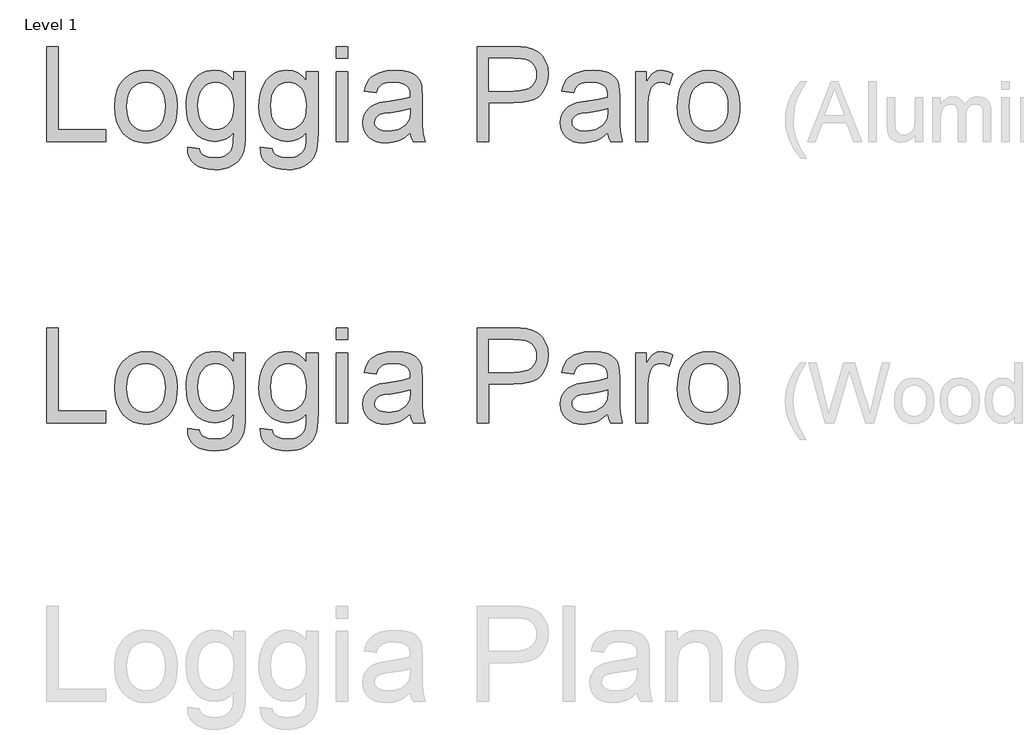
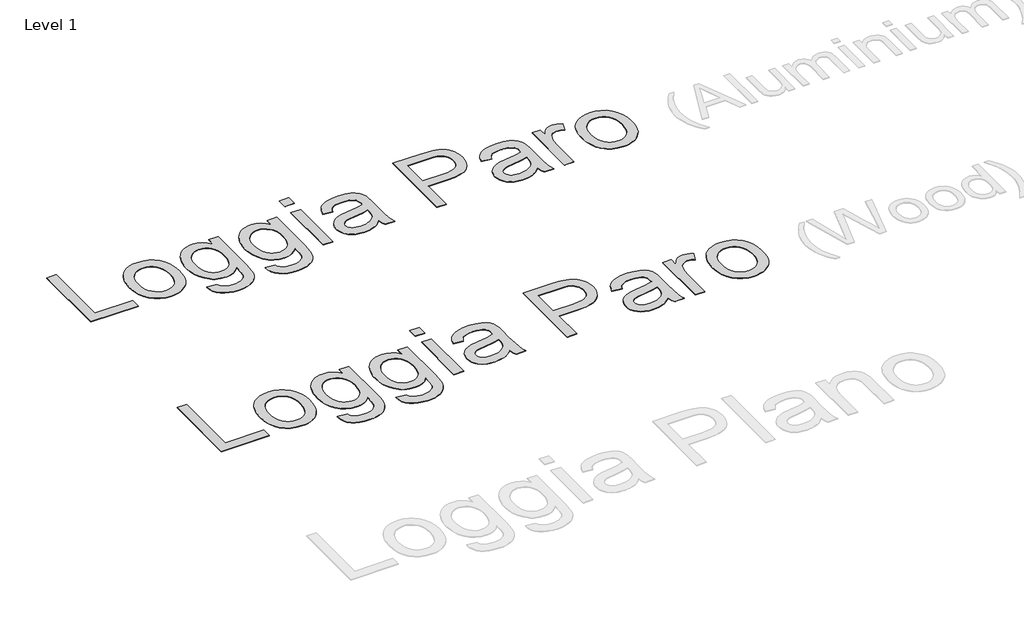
# One storey, part 13 of 80: 2 proxies.
"""IFC4 building model written with IfcOpenShell, lengths in millimetres."""

from ifc_helpers import new_model, si_unit, origin, origin_with_axes, place, context, project, spatial, polyline, outline, extrude, element, save

model = new_model("IFC4")

# Units and contexts
model_context = context("Model", 3, world=origin())
ifc_project = project(units=[si_unit("LENGTHUNIT", "METRE", prefix="MILLI")], contexts=[model_context])

# Site, building, storey
site = spatial("IfcSite", under=ifc_project)
building = spatial("IfcBuilding", under=site)
storey = spatial("IfcBuildingStorey", under=building, Name="Level 1", Elevation=0.0)

# Proxies
placement = place(None, origin())
element("IfcBuildingElementProxy", 1, Name="800mm Arial", ObjectType="800mm Arial", at=placement, inside=storey, context=model_context, shape_type="SweptSolid", body=[
    extrude(outline(polyline([(369965.6331768, -49676.4812629), (369965.6331768, -48877.0925645), (370065.556764, -48877.0925645), (370065.556764, -49576.5576756), (370465.2511132, -49576.5576756), (370465.2511132, -49676.4812629), (369965.6331768, -49676.4812629)])), origin_with_axes(), (0.0, 0.0, 1.0), 5.0),
    extrude(outline(polyline([(370540.1938037, -49382.9557252), (370545.5973864, -49306.9274391), (370552.3518647, -49272.8562038), (370561.8081343, -49241.4135735), (370573.9661953, -49212.5995483), (370588.8260477, -49186.4141283), (370606.3876913, -49162.8573133), (370626.6511263, -49141.9291035), (370664.7323567, -49113.4962566), (370706.7656431, -49093.1870802), (370752.7509853, -49081.0015744), (370802.6883836, -49076.9397391), (370857.8159047, -49081.8859079), (370907.6618201, -49096.7244143), (370952.22613, -49121.4552582), (370991.5088342, -49156.0784396), (371023.5704979, -49199.4229791), (371046.4716863, -49250.3178971), (371060.2123993, -49308.7631935), (371064.792637, -49374.7588684), (371062.7678182, -49428.2457984), (371056.6933618, -49475.7070628), (371046.5692679, -49517.1426617), (371032.3955364, -49552.5525951), (371014.349034, -49583.1383366), (370992.6066275, -49610.1013603), (370967.1683168, -49633.441666), (370938.0341019, -49653.1592537), (370906.3383693, -49668.8272039), (370873.2155054, -49680.0185969), (370838.6655101, -49686.7334327), (370802.6883836, -49688.9717113), (370746.7558141, -49684.0438391), (370696.4463859, -49669.2602224), (370651.760099, -49644.6208613), (370612.6969535, -49610.1257557), (370580.9768254, -49566.3603954), (370558.3195911, -49513.9102703), (370544.7252505, -49452.7753802), (370540.1938037, -49382.9557252)]), holes=[polyline([(370640.117391, -49382.760562), (370643.0082467, -49431.2281369), (370651.6808139, -49473.1943359), (370666.1350926, -49508.6591589), (370686.3710828, -49537.6226059), (370710.9860485, -49560.1212701), (370738.5772539, -49576.1917445), (370769.1446989, -49585.8340291), (370802.6883836, -49589.048124), (370836.0613004, -49585.8157326), (370866.5067684, -49576.1185583), (370894.0247876, -49559.9566011), (370918.6153579, -49537.3298611), (370938.8513481, -49508.079768), (370953.3056267, -49472.0477518), (370961.9781939, -49429.2338124), (370964.8690497, -49379.6379499), (370961.9598974, -49332.7072855), (370953.2324405, -49291.8388799), (370938.6866791, -49257.0327329), (370918.322613, -49228.2888445), (370893.6405599, -49205.7901803), (370866.1408373, -49189.7197059), (370835.8234452, -49180.0774213), (370802.6883836, -49176.8633264), (370769.1446989, -49180.0652236), (370738.5772539, -49189.6709151), (370710.9860485, -49205.680401), (370686.3710828, -49228.0936812), (370666.1350926, -49256.9717443), (370651.6808139, -49292.3755788), (370643.0082467, -49334.3051847), (370640.117391, -49382.760562)])]), origin_with_axes(), (0.0, 0.0, 1.0), 5.0),
    extrude(outline(polyline([(371152.2257759, -49726.4430565), (371252.1493631, -49738.9335049), (371256.3697686, -49755.7663358), (371263.1760871, -49770.159626), (371272.5683189, -49782.1133754), (371284.5464637, -49791.6275842), (371303.9286146, -49801.3613516), (371326.5553547, -49808.3140426), (371381.5426022, -49813.8761954), (371412.7443278, -49812.3026917), (371440.1891607, -49807.5821804), (371463.877101, -49799.7146616), (371483.8081485, -49788.7001353), (371500.3970253, -49774.8435441), (371514.0584533, -49758.4498306), (371524.7924324, -49739.5189947), (371532.5989626, -49718.0510365), (371538.014743, -49675.0663293), (371539.4296766, -49601.5385724), (371506.1787368, -49634.3259995), (371469.0733227, -49657.7455903), (371428.1134342, -49671.7973447), (371383.2990715, -49676.4812629), (371328.5130861, -49671.0288894), (371280.2772675, -49654.671769), (371258.6156707, -49642.4039287), (371238.5916157, -49627.4099016), (371203.4561307, -49589.2432873), (371175.5782793, -49543.4531082), (371155.6655283, -49493.3205467), (371143.7178776, -49438.8456028), (371139.7353274, -49380.0282764), (371141.522291, -49338.8793235), (371146.8831817, -49299.3526652), (371155.8179995, -49261.4483015), (371168.3267445, -49225.1662324), (371184.2203522, -49191.7140305), (371203.3097582, -49162.2992684), (371225.5949626, -49136.9219462), (371251.0759652, -49115.5820639), (371279.3441432, -49098.6760468), (371309.9908733, -49086.6003203), (371343.0161556, -49079.3548844), (371378.4199901, -49076.9397391), (371425.1493923, -49082.4043103), (371467.5608074, -49098.7980238), (371505.6542356, -49126.1208797), (371539.4296766, -49164.372878), (371539.4296766, -49089.4301875), (371639.3532639, -49089.4301875), (371639.3532639, -49596.2691645), (371637.6455854, -49659.7765079), (371632.5225499, -49713.2939321), (371623.9841575, -49756.8214372), (371612.030408, -49790.359023), (371596.3746555, -49817.4074306), (371576.730254, -49841.4674008), (371553.0972034, -49862.5389336), (371525.4755038, -49880.6220291), (371494.1457023, -49895.1372963), (371459.3883461, -49905.5053443), (371421.2034352, -49911.7261731), (371379.5909696, -49913.7997827), (371330.6354865, -49910.8784327), (371286.6200733, -49902.1143827), (371247.5447301, -49887.5076328), (371213.4094567, -49867.0581828), (371185.8365479, -49840.7416374), (371166.4482982, -49808.5336013), (371155.2447075, -49770.4340743), (371152.2257759, -49726.4430565)]), holes=[polyline([(371239.6589147, -49373.1975624), (371242.324113, -49422.6043605), (371250.3197076, -49464.8511067), (371263.6456987, -49499.9378009), (371282.3020863, -49527.8644431), (371304.983716, -49549.1677323), (371330.3854336, -49564.3843675), (371358.5072391, -49573.5143486), (371389.3491324, -49576.5576756), (371419.8860832, -49573.5326451), (371447.8737139, -49564.4575537), (371473.3120246, -49549.3324013), (371496.2010153, -49528.157188), (371515.1135546, -49500.5049941), (371528.6225113, -49465.9489), (371536.7278853, -49424.4889057), (371539.4296766, -49376.1250112), (371536.6486002, -49329.7798367), (371528.305371, -49289.4969208), (371514.399989, -49255.2762635), (371494.9324542, -49227.117865), (371471.5494565, -49205.1315043), (371445.897686, -49189.4269611), (371417.9771426, -49180.0042351), (371387.7878264, -49176.8633264), (371358.1047148, -49179.9554443), (371330.7269693, -49189.2317978), (371305.6545897, -49204.692387), (371282.887576, -49226.3372119), (371263.9750367, -49254.0686909), (371250.4660801, -49287.7892423), (371242.3607061, -49327.4988661), (371239.6589147, -49373.1975624)])]), origin_with_axes(), (0.0, 0.0, 1.0), 5.0),
    extrude(outline(polyline([(371764.257748, -49726.4430565), (371864.1813353, -49738.9335049), (371868.4017407, -49755.7663358), (371875.2080593, -49770.159626), (371884.600291, -49782.1133754), (371896.5784359, -49791.6275842), (371915.9605868, -49801.3613516), (371938.5873268, -49808.3140426), (371993.5745743, -49813.8761954), (372024.7763, -49812.3026917), (372052.2211329, -49807.5821804), (372075.9090731, -49799.7146616), (372095.8401207, -49788.7001353), (372112.4289975, -49774.8435441), (372126.0904254, -49758.4498306), (372136.8244046, -49739.5189947), (372144.6309348, -49718.0510365), (372150.0467152, -49675.0663293), (372151.4616488, -49601.5385724), (372118.210709, -49634.3259995), (372081.1052948, -49657.7455903), (372040.1454064, -49671.7973447), (371995.3310436, -49676.4812629), (371940.5450582, -49671.0288894), (371892.3092397, -49654.671769), (371870.6476429, -49642.4039287), (371850.6235878, -49627.4099016), (371815.4881028, -49589.2432873), (371787.6102514, -49543.4531082), (371767.6975004, -49493.3205467), (371755.7498498, -49438.8456028), (371751.7672996, -49380.0282764), (371753.5542632, -49338.8793235), (371758.9151539, -49299.3526652), (371767.8499717, -49261.4483015), (371780.3587167, -49225.1662324), (371796.2523244, -49191.7140305), (371815.3417304, -49162.2992684), (371837.6269347, -49136.9219462), (371863.1079374, -49115.5820639), (371891.3761153, -49098.6760468), (371922.0228454, -49086.6003203), (371955.0481277, -49079.3548844), (371990.4519622, -49076.9397391), (372037.1813644, -49082.4043103), (372079.5927796, -49098.7980238), (372117.6862077, -49126.1208797), (372151.4616488, -49164.372878), (372151.4616488, -49089.4301875), (372251.3852361, -49089.4301875), (372251.3852361, -49596.2691645), (372249.6775576, -49659.7765079), (372244.5545221, -49713.2939321), (372236.0161296, -49756.8214372), (372224.0623802, -49790.359023), (372208.4066277, -49817.4074306), (372188.7622262, -49841.4674008), (372165.1291756, -49862.5389336), (372137.5074759, -49880.6220291), (372106.1776744, -49895.1372963), (372071.4203182, -49905.5053443), (372033.2354073, -49911.7261731), (371991.6229418, -49913.7997827), (371942.6674587, -49910.8784327), (371898.6520455, -49902.1143827), (371859.5767022, -49887.5076328), (371825.4414289, -49867.0581828), (371797.8685201, -49840.7416374), (371778.4802703, -49808.5336013), (371767.2766796, -49770.4340743), (371764.257748, -49726.4430565)]), holes=[polyline([(371851.6908869, -49373.1975624), (371854.3560851, -49422.6043605), (371862.3516798, -49464.8511067), (371875.6776709, -49499.9378009), (371894.3340584, -49527.8644431), (371917.0156881, -49549.1677323), (371942.4174057, -49564.3843675), (371970.5392112, -49573.5143486), (372001.3811046, -49576.5576756), (372031.9180554, -49573.5326451), (372059.9056861, -49564.4575537), (372085.3439968, -49549.3324013), (372108.2329875, -49528.157188), (372127.1455268, -49500.5049941), (372140.6544835, -49465.9489), (372148.7598575, -49424.4889057), (372151.4616488, -49376.1250112), (372148.6805724, -49329.7798367), (372140.3373432, -49289.4969208), (372126.4319611, -49255.2762635), (372106.9644263, -49227.117865), (372083.5814287, -49205.1315043), (372057.9296581, -49189.4269611), (372030.0091148, -49180.0042351), (371999.8197985, -49176.8633264), (371970.136687, -49179.9554443), (371942.7589414, -49189.2317978), (371917.6865618, -49204.692387), (371894.9195482, -49226.3372119), (371876.0070089, -49254.0686909), (371862.4980522, -49287.7892423), (371854.3926782, -49327.4988661), (371851.6908869, -49373.1975624)])]), origin_with_axes(), (0.0, 0.0, 1.0), 5.0),
    extrude(outline(polyline([(372401.270617, -49676.4812629), (372401.270617, -49089.4301875), (372501.1942043, -49089.4301875), (372501.1942043, -49676.4812629), (372401.270617, -49676.4812629)])), origin_with_axes(), (0.0, 0.0, 1.0), 5.0),
    extrude(outline(polyline([(372401.270617, -48977.0161518), (372401.270617, -48877.0925645), (372501.1942043, -48877.0925645), (372501.1942043, -48977.0161518), (372401.270617, -48977.0161518)])), origin_with_axes(), (0.0, 0.0, 1.0), 5.0),
    extrude(outline(polyline([(373025.7930376, -49601.5385724), (372978.051226, -49642.4740655), (372953.6497201, -49657.6358109), (372928.8944808, -49669.2602224), (372877.2006132, -49684.0438391), (372821.8474346, -49688.9717113), (372777.356311, -49686.0076693), (372738.3419563, -49677.1155435), (372704.8043704, -49662.2953337), (372676.7435535, -49641.54704), (372654.586425, -49616.1880144), (372638.7599047, -49587.5356088), (372629.2639925, -49555.5898232), (372626.0986884, -49520.3506577), (372630.8801882, -49478.9272566), (372645.2246876, -49441.3095389), (372667.3513218, -49409.1076016), (372695.4792261, -49383.9315415), (372728.5350026, -49364.903124), (372765.4452535, -49351.1441144), (372851.9025761, -49336.1165437), (372954.0705409, -49320.3083199), (373025.2075478, -49301.7678105), (373025.7930376, -49279.5191993), (373024.0731614, -49255.2945601), (373018.9135328, -49234.9243952), (373010.3141518, -49218.4087046), (372998.2750184, -49205.7474884), (372977.4657362, -49193.1106675), (372952.1189083, -49184.0843669), (372922.2345347, -49178.6685865), (372887.8126153, -49176.8633264), (372828.2878221, -49181.6692216), (372805.2585578, -49187.6765906), (372786.7180485, -49196.0869072), (372771.4831168, -49207.5588473), (372758.3705855, -49222.7510871), (372747.3804546, -49241.6636264), (372738.5127241, -49264.2964653), (372638.5891368, -49251.8060169), (372655.9342713, -49197.1603051), (372667.8087356, -49174.2286225), (372681.8177981, -49154.2243887), (372698.5652451, -49136.7450795), (372718.6548628, -49121.3881708), (372742.0866513, -49108.1536625), (372768.8606105, -49097.0415545), (372830.2638501, -49081.965193), (372900.6933902, -49076.9397391), (372968.2442724, -49081.3797032), (373021.7921908, -49094.6995955), (373062.1665895, -49114.7282247), (373090.1969122, -49139.2943996), (373108.7862124, -49169.6666813), (373120.8375435, -49207.1136312), (373124.4968545, -49241.6575276), (373125.7166249, -49294.5467701), (373125.7166249, -49418.8657644), (373126.9851861, -49527.1569763), (373130.7908696, -49592.463481), (373138.3046549, -49635.375002), (373150.6975217, -49676.4812629), (373050.7739344, -49676.4812629), (373034.7705474, -49641.7422032), (373025.7930376, -49601.5385724)]), holes=[polyline([(373025.7930376, -49401.6913978), (372958.6568774, -49418.3290654), (372864.5881878, -49432.3320291), (372812.7479478, -49439.9921869), (372778.6187733, -49448.5305794), (372756.2481851, -49459.6060942), (372739.6837037, -49474.877619), (372729.4376327, -49493.1741743), (372726.0222757, -49513.3247805), (372727.8824255, -49528.8524571), (372733.4628749, -49543.0383863), (372742.7636238, -49555.8825681), (372755.7846723, -49567.3850025), (372772.4040434, -49576.8626182), (372792.4997599, -49583.6323436), (372843.1202296, -49589.048124), (372896.7901251, -49583.0712493), (372921.2831138, -49575.6001559), (372944.2147964, -49565.1406251), (372982.6619579, -49538.7203993), (373009.3993241, -49507.2747196), (373021.2554919, -49474.877619), (373025.2075478, -49429.99007), (373025.7930376, -49401.6913978)])]), origin_with_axes(), (0.0, 0.0, 1.0), 5.0),
    extrude(outline(polyline([(373587.8632161, -49676.4812629), (373587.8632161, -48877.0925645), (373884.1210394, -48877.0925645), (373953.1112505, -48878.9954063), (374003.5609523, -48884.7039315), (374056.8161259, -48898.9264539), (374100.6546724, -48922.0776952), (374119.2622691, -48937.263836), (374135.9548264, -48955.2066579), (374163.5948226, -48999.3623447), (374174.0116614, -49024.8006554), (374181.4522606, -49051.4465388), (374187.4047399, -49108.3610234), (374183.3855966, -49157.4323847), (374171.3281666, -49202.5760855), (374151.2324501, -49243.7921257), (374123.0984469, -49281.0805054), (374105.4041532, -49297.6388879), (374084.4744187, -49311.9894861), (374060.3092433, -49324.1323), (374032.908627, -49334.0673295), (373968.4010719, -49347.3140355), (373890.9517534, -49351.7296042), (373687.7868034, -49351.7296042), (373687.7868034, -49676.4812629), (373587.8632161, -49676.4812629)]), holes=[polyline([(373687.7868034, -49251.8060169), (373896.806651, -49251.8060169), (373944.8656029, -49249.5128486), (373985.4107695, -49242.6333438), (374018.4421506, -49231.1675025), (374043.9597464, -49215.1153247), (374063.0003616, -49194.9037299), (374076.600801, -49170.9596379), (374084.7610647, -49143.2830486), (374087.4811526, -49111.873962), (374085.8771546, -49088.5519529), (374081.0651605, -49066.9864131), (374073.0451705, -49047.1773425), (374061.8171844, -49029.1247413), (374047.9788897, -49013.4140992), (374032.127974, -49000.6309059), (374014.2644372, -48990.7751614), (373994.3882793, -48983.8468658), (373955.8435361, -48978.7238303), (373894.464692, -48977.0161518), (373687.7868034, -48977.0161518), (373687.7868034, -49251.8060169)])]), origin_with_axes(), (0.0, 0.0, 1.0), 5.0),
    extrude(outline(polyline([(374687.0226763, -49601.5385724), (374639.2808647, -49642.4740655), (374614.8793588, -49657.6358109), (374590.1241195, -49669.2602224), (374538.430252, -49684.0438391), (374483.0770734, -49688.9717113), (374438.5859498, -49686.0076693), (374399.571595, -49677.1155435), (374366.0340092, -49662.2953337), (374337.9731922, -49641.54704), (374315.8160638, -49616.1880144), (374299.9895434, -49587.5356088), (374290.4936312, -49555.5898232), (374287.3283272, -49520.3506577), (374292.1098269, -49478.9272566), (374306.4543263, -49441.3095389), (374328.5809605, -49409.1076016), (374356.7088648, -49383.9315415), (374389.7646414, -49364.903124), (374426.6748923, -49351.1441144), (374513.1322149, -49336.1165437), (374615.3001796, -49320.3083199), (374686.4371866, -49301.7678105), (374687.0226763, -49279.5191993), (374685.3028001, -49255.2945601), (374680.1431715, -49234.9243952), (374671.5437906, -49218.4087046), (374659.5046572, -49205.7474884), (374638.695375, -49193.1106675), (374613.348547, -49184.0843669), (374583.4641734, -49178.6685865), (374549.042254, -49176.8633264), (374489.5174608, -49181.6692216), (374466.4881966, -49187.6765906), (374447.9476872, -49196.0869072), (374432.7127555, -49207.5588473), (374419.6002242, -49222.7510871), (374408.6100933, -49241.6636264), (374399.7423629, -49264.2964653), (374299.8187756, -49251.8060169), (374317.16391, -49197.1603051), (374329.0383744, -49174.2286225), (374343.0474369, -49154.2243887), (374359.7948838, -49136.7450795), (374379.8845015, -49121.3881708), (374403.31629, -49108.1536625), (374430.0902492, -49097.0415545), (374491.4934888, -49081.965193), (374561.923029, -49076.9397391), (374629.4739111, -49081.3797032), (374683.0218296, -49094.6995955), (374723.3962283, -49114.7282247), (374751.426551, -49139.2943996), (374770.0158511, -49169.6666813), (374782.0671822, -49207.1136312), (374785.7264933, -49241.6575276), (374786.9462636, -49294.5467701), (374786.9462636, -49418.8657644), (374788.2148248, -49527.1569763), (374792.0205083, -49592.463481), (374799.5342937, -49635.375002), (374811.9271605, -49676.4812629), (374712.0035732, -49676.4812629), (374696.0001861, -49641.7422032), (374687.0226763, -49601.5385724)]), holes=[polyline([(374687.0226763, -49401.6913978), (374619.8865161, -49418.3290654), (374525.8178265, -49432.3320291), (374473.9775865, -49439.9921869), (374439.8484121, -49448.5305794), (374417.4778238, -49459.6060942), (374400.9133424, -49474.877619), (374390.6672714, -49493.1741743), (374387.2519145, -49513.3247805), (374389.1120642, -49528.8524571), (374394.6925136, -49543.0383863), (374403.9932626, -49555.8825681), (374417.0143111, -49567.3850025), (374433.6336821, -49576.8626182), (374453.7293987, -49583.6323436), (374504.3498683, -49589.048124), (374558.0197638, -49583.0712493), (374582.5127525, -49575.6001559), (374605.4444351, -49565.1406251), (374643.8915967, -49538.7203993), (374670.6289628, -49507.2747196), (374682.4851306, -49474.877619), (374686.4371866, -49429.99007), (374687.0226763, -49401.6913978)])]), origin_with_axes(), (0.0, 0.0, 1.0), 5.0),
    extrude(outline(polyline([(374924.3411962, -49676.4812629), (374924.3411962, -49089.4301875), (375011.774335, -49089.4301875), (375011.774335, -49176.2778367), (375044.073854, -49125.9257165), (375059.2721926, -49108.5073959), (375073.8362506, -49096.2609015), (375103.6962288, -49081.7700297), (375136.2884926, -49076.9397391), (375161.0742262, -49078.8669763), (375186.055123, -49084.6486878), (375211.2311831, -49094.2848735), (375236.6024064, -49107.7755336), (375203.2294896, -49197.3554683), (375168.1001034, -49181.9863619), (375132.9707173, -49176.8633264), (375103.1351345, -49181.7911986), (375076.4709545, -49196.5748153), (375054.9298101, -49220.0919877), (375040.4633337, -49251.2205271), (375028.314421, -49307.0372185), (375024.2647835, -49367.9281545), (375024.2647835, -49676.4812629), (374924.3411962, -49676.4812629)])), origin_with_axes(), (0.0, 0.0, 1.0), 5.0),
    extrude(outline(polyline([(375274.0737517, -49382.9557252), (375279.4773343, -49306.9274391), (375286.2318127, -49272.8562038), (375295.6880823, -49241.4135735), (375307.8461433, -49212.5995483), (375322.7059956, -49186.4141283), (375340.2676393, -49162.8573133), (375360.5310743, -49141.9291035), (375398.6123047, -49113.4962566), (375440.645591, -49093.1870802), (375486.6309333, -49081.0015744), (375536.5683316, -49076.9397391), (375591.6958527, -49081.8859079), (375641.5417681, -49096.7244143), (375686.106078, -49121.4552582), (375725.3887822, -49156.0784396), (375757.4504459, -49199.4229791), (375780.3516343, -49250.3178971), (375794.0923473, -49308.7631935), (375798.672585, -49374.7588684), (375796.6477662, -49428.2457984), (375790.5733098, -49475.7070628), (375780.4492159, -49517.1426617), (375766.2754844, -49552.5525951), (375748.228982, -49583.1383366), (375726.4865755, -49610.1013603), (375701.0482648, -49633.441666), (375671.9140499, -49653.1592537), (375640.2183173, -49668.8272039), (375607.0954534, -49680.0185969), (375572.5454581, -49686.7334327), (375536.5683316, -49688.9717113), (375480.6357621, -49684.0438391), (375430.3263339, -49669.2602224), (375385.640047, -49644.6208613), (375346.5769014, -49610.1257557), (375314.8567734, -49566.3603954), (375292.1995391, -49513.9102703), (375278.6051985, -49452.7753802), (375274.0737517, -49382.9557252)]), holes=[polyline([(375373.997339, -49382.760562), (375376.8881947, -49431.2281369), (375385.5607619, -49473.1943359), (375400.0150406, -49508.6591589), (375420.2510307, -49537.6226059), (375444.8659965, -49560.1212701), (375472.4572018, -49576.1917445), (375503.0246469, -49585.8340291), (375536.5683316, -49589.048124), (375569.9412484, -49585.8157326), (375600.3867164, -49576.1185583), (375627.9047356, -49559.9566011), (375652.4953059, -49537.3298611), (375672.7312961, -49508.079768), (375687.1855747, -49472.0477518), (375695.8581419, -49429.2338124), (375698.7489977, -49379.6379499), (375695.8398454, -49332.7072855), (375687.1123885, -49291.8388799), (375672.5666271, -49257.0327329), (375652.202561, -49228.2888445), (375627.5205079, -49205.7901803), (375600.0207853, -49189.7197059), (375569.7033932, -49180.0774213), (375536.5683316, -49176.8633264), (375503.0246469, -49180.0652236), (375472.4572018, -49189.6709151), (375444.8659965, -49205.680401), (375420.2510307, -49228.0936812), (375400.0150406, -49256.9717443), (375385.5607619, -49292.3755788), (375376.8881947, -49334.3051847), (375373.997339, -49382.760562)])]), origin_with_axes(), (0.0, 0.0, 1.0), 5.0),
])
element("IfcBuildingElementProxy", 2, Name="800mm Arial", ObjectType="800mm Arial", at=placement, inside=storey, context=model_context, shape_type="SweptSolid", body=[
    extrude(outline(polyline([(369965.6331768, -52044.9862349), (369965.6331768, -51245.5975366), (370065.556764, -51245.5975366), (370065.556764, -51945.0626476), (370465.2511132, -51945.0626476), (370465.2511132, -52044.9862349), (369965.6331768, -52044.9862349)])), origin_with_axes(), (0.0, 0.0, 1.0), 5.0),
    extrude(outline(polyline([(370540.1938037, -51751.4606973), (370545.5973864, -51675.4324112), (370552.3518647, -51641.3611758), (370561.8081343, -51609.9185455), (370573.9661953, -51581.1045204), (370588.8260477, -51554.9191003), (370606.3876913, -51531.3622854), (370626.6511263, -51510.4340756), (370664.7323567, -51482.0012287), (370706.7656431, -51461.6920523), (370752.7509853, -51449.5065465), (370802.6883836, -51445.4447112), (370857.8159047, -51450.39088), (370907.6618201, -51465.2293863), (370952.22613, -51489.9602302), (370991.5088342, -51524.5834117), (371023.5704979, -51567.9279511), (371046.4716863, -51618.8228691), (371060.2123993, -51677.2681656), (371064.792637, -51743.2638405), (371062.7678182, -51796.7507705), (371056.6933618, -51844.2120349), (371046.5692679, -51885.6476338), (371032.3955364, -51921.0575671), (371014.349034, -51951.6433087), (370992.6066275, -51978.6063323), (370967.1683168, -52001.946638), (370938.0341019, -52021.6642258), (370906.3383693, -52037.332176), (370873.2155054, -52048.523569), (370838.6655101, -52055.2384048), (370802.6883836, -52057.4766833), (370746.7558141, -52052.5488111), (370696.4463859, -52037.7651944), (370651.760099, -52013.1258333), (370612.6969535, -51978.6307278), (370580.9768254, -51934.8653675), (370558.3195911, -51882.4152423), (370544.7252505, -51821.2803523), (370540.1938037, -51751.4606973)]), holes=[polyline([(370640.117391, -51751.265534), (370643.0082467, -51799.733109), (370651.6808139, -51841.699308), (370666.1350926, -51877.164131), (370686.3710828, -51906.127578), (370710.9860485, -51928.6262421), (370738.5772539, -51944.6967165), (370769.1446989, -51954.3390012), (370802.6883836, -51957.5530961), (370836.0613004, -51954.3207046), (370866.5067684, -51944.6235303), (370894.0247876, -51928.4615731), (370918.6153579, -51905.8348331), (370938.8513481, -51876.58474), (370953.3056267, -51840.5527238), (370961.9781939, -51797.7387844), (370964.8690497, -51748.1429219), (370961.9598974, -51701.2122576), (370953.2324405, -51660.3438519), (370938.6866791, -51625.5377049), (370918.322613, -51596.7938165), (370893.6405599, -51574.2951524), (370866.1408373, -51558.224678), (370835.8234452, -51548.5823934), (370802.6883836, -51545.3682985), (370769.1446989, -51548.5701956), (370738.5772539, -51558.1758872), (370710.9860485, -51574.1853731), (370686.3710828, -51596.5986533), (370666.1350926, -51625.4767164), (370651.6808139, -51660.8805509), (370643.0082467, -51702.8101567), (370640.117391, -51751.265534)])]), origin_with_axes(), (0.0, 0.0, 1.0), 5.0),
    extrude(outline(polyline([(371152.2257759, -52094.9480286), (371252.1493631, -52107.438477), (371256.3697686, -52124.2713079), (371263.1760871, -52138.664598), (371272.5683189, -52150.6183475), (371284.5464637, -52160.1325562), (371303.9286146, -52169.8663236), (371326.5553547, -52176.8190147), (371381.5426022, -52182.3811675), (371412.7443278, -52180.8076637), (371440.1891607, -52176.0871524), (371463.877101, -52168.2196337), (371483.8081485, -52157.2051074), (371500.3970253, -52143.3485162), (371514.0584533, -52126.9548026), (371524.7924324, -52108.0239668), (371532.5989626, -52086.5560086), (371538.014743, -52043.5713013), (371539.4296766, -51970.0435445), (371506.1787368, -52002.8309715), (371469.0733227, -52026.2505623), (371428.1134342, -52040.3023168), (371383.2990715, -52044.9862349), (371328.5130861, -52039.5338615), (371280.2772675, -52023.176741), (371258.6156707, -52010.9089007), (371238.5916157, -51995.9148736), (371203.4561307, -51957.7482593), (371175.5782793, -51911.9580803), (371155.6655283, -51861.8255188), (371143.7178776, -51807.3505748), (371139.7353274, -51748.5332484), (371141.522291, -51707.3842956), (371146.8831817, -51667.8576373), (371155.8179995, -51629.9532736), (371168.3267445, -51593.6712044), (371184.2203522, -51560.2190025), (371203.3097582, -51530.8042405), (371225.5949626, -51505.4269183), (371251.0759652, -51484.087036), (371279.3441432, -51467.1810189), (371309.9908733, -51455.1052924), (371343.0161556, -51447.8598565), (371378.4199901, -51445.4447112), (371425.1493923, -51450.9092824), (371467.5608074, -51467.3029959), (371505.6542356, -51494.6258518), (371539.4296766, -51532.8778501), (371539.4296766, -51457.9351596), (371639.3532639, -51457.9351596), (371639.3532639, -51964.7741365), (371637.6455854, -52028.28148), (371632.5225499, -52081.7989042), (371623.9841575, -52125.3264092), (371612.030408, -52158.8639951), (371596.3746555, -52185.9124026), (371576.730254, -52209.9723728), (371553.0972034, -52231.0439057), (371525.4755038, -52249.1270012), (371494.1457023, -52263.6422684), (371459.3883461, -52274.0103164), (371421.2034352, -52280.2311452), (371379.5909696, -52282.3047548), (371330.6354865, -52279.3834048), (371286.6200733, -52270.6193548), (371247.5447301, -52256.0126048), (371213.4094567, -52235.5631548), (371185.8365479, -52209.2466095), (371166.4482982, -52177.0385733), (371155.2447075, -52138.9390464), (371152.2257759, -52094.9480286)]), holes=[polyline([(371239.6589147, -51741.7025344), (371242.324113, -51791.1093326), (371250.3197076, -51833.3560787), (371263.6456987, -51868.4427729), (371282.3020863, -51896.3694152), (371304.983716, -51917.6727044), (371330.3854336, -51932.8893395), (371358.5072391, -51942.0193206), (371389.3491324, -51945.0626476), (371419.8860832, -51942.0376172), (371447.8737139, -51932.9625257), (371473.3120246, -51917.8373734), (371496.2010153, -51896.66216), (371515.1135546, -51869.0099662), (371528.6225113, -51834.4538721), (371536.7278853, -51792.9938778), (371539.4296766, -51744.6299833), (371536.6486002, -51698.2848087), (371528.305371, -51658.0018928), (371514.399989, -51623.7812356), (371494.9324542, -51595.622837), (371471.5494565, -51573.6364764), (371445.897686, -51557.9319331), (371417.9771426, -51548.5092071), (371387.7878264, -51545.3682985), (371358.1047148, -51548.4604163), (371330.7269693, -51557.7367699), (371305.6545897, -51573.1973591), (371282.887576, -51594.842184), (371263.9750367, -51622.5736629), (371250.4660801, -51656.2942143), (371242.3607061, -51696.0038382), (371239.6589147, -51741.7025344)])]), origin_with_axes(), (0.0, 0.0, 1.0), 5.0),
    extrude(outline(polyline([(371764.257748, -52094.9480286), (371864.1813353, -52107.438477), (371868.4017407, -52124.2713079), (371875.2080593, -52138.664598), (371884.600291, -52150.6183475), (371896.5784359, -52160.1325562), (371915.9605868, -52169.8663236), (371938.5873268, -52176.8190147), (371993.5745743, -52182.3811675), (372024.7763, -52180.8076637), (372052.2211329, -52176.0871524), (372075.9090731, -52168.2196337), (372095.8401207, -52157.2051074), (372112.4289975, -52143.3485162), (372126.0904254, -52126.9548026), (372136.8244046, -52108.0239668), (372144.6309348, -52086.5560086), (372150.0467152, -52043.5713013), (372151.4616488, -51970.0435445), (372118.210709, -52002.8309715), (372081.1052948, -52026.2505623), (372040.1454064, -52040.3023168), (371995.3310436, -52044.9862349), (371940.5450582, -52039.5338615), (371892.3092397, -52023.176741), (371870.6476429, -52010.9089007), (371850.6235878, -51995.9148736), (371815.4881028, -51957.7482593), (371787.6102514, -51911.9580803), (371767.6975004, -51861.8255188), (371755.7498498, -51807.3505748), (371751.7672996, -51748.5332484), (371753.5542632, -51707.3842956), (371758.9151539, -51667.8576373), (371767.8499717, -51629.9532736), (371780.3587167, -51593.6712044), (371796.2523244, -51560.2190025), (371815.3417304, -51530.8042405), (371837.6269347, -51505.4269183), (371863.1079374, -51484.087036), (371891.3761153, -51467.1810189), (371922.0228454, -51455.1052924), (371955.0481277, -51447.8598565), (371990.4519622, -51445.4447112), (372037.1813644, -51450.9092824), (372079.5927796, -51467.3029959), (372117.6862077, -51494.6258518), (372151.4616488, -51532.8778501), (372151.4616488, -51457.9351596), (372251.3852361, -51457.9351596), (372251.3852361, -51964.7741365), (372249.6775576, -52028.28148), (372244.5545221, -52081.7989042), (372236.0161296, -52125.3264092), (372224.0623802, -52158.8639951), (372208.4066277, -52185.9124026), (372188.7622262, -52209.9723728), (372165.1291756, -52231.0439057), (372137.5074759, -52249.1270012), (372106.1776744, -52263.6422684), (372071.4203182, -52274.0103164), (372033.2354073, -52280.2311452), (371991.6229418, -52282.3047548), (371942.6674587, -52279.3834048), (371898.6520455, -52270.6193548), (371859.5767022, -52256.0126048), (371825.4414289, -52235.5631548), (371797.8685201, -52209.2466095), (371778.4802703, -52177.0385733), (371767.2766796, -52138.9390464), (371764.257748, -52094.9480286)]), holes=[polyline([(371851.6908869, -51741.7025344), (371854.3560851, -51791.1093326), (371862.3516798, -51833.3560787), (371875.6776709, -51868.4427729), (371894.3340584, -51896.3694152), (371917.0156881, -51917.6727044), (371942.4174057, -51932.8893395), (371970.5392112, -51942.0193206), (372001.3811046, -51945.0626476), (372031.9180554, -51942.0376172), (372059.9056861, -51932.9625257), (372085.3439968, -51917.8373734), (372108.2329875, -51896.66216), (372127.1455268, -51869.0099662), (372140.6544835, -51834.4538721), (372148.7598575, -51792.9938778), (372151.4616488, -51744.6299833), (372148.6805724, -51698.2848087), (372140.3373432, -51658.0018928), (372126.4319611, -51623.7812356), (372106.9644263, -51595.622837), (372083.5814287, -51573.6364764), (372057.9296581, -51557.9319331), (372030.0091148, -51548.5092071), (371999.8197985, -51545.3682985), (371970.136687, -51548.4604163), (371942.7589414, -51557.7367699), (371917.6865618, -51573.1973591), (371894.9195482, -51594.842184), (371876.0070089, -51622.5736629), (371862.4980522, -51656.2942143), (371854.3926782, -51696.0038382), (371851.6908869, -51741.7025344)])]), origin_with_axes(), (0.0, 0.0, 1.0), 5.0),
    extrude(outline(polyline([(372401.270617, -52044.9862349), (372401.270617, -51457.9351596), (372501.1942043, -51457.9351596), (372501.1942043, -52044.9862349), (372401.270617, -52044.9862349)])), origin_with_axes(), (0.0, 0.0, 1.0), 5.0),
    extrude(outline(polyline([(372401.270617, -51345.5211239), (372401.270617, -51245.5975366), (372501.1942043, -51245.5975366), (372501.1942043, -51345.5211239), (372401.270617, -51345.5211239)])), origin_with_axes(), (0.0, 0.0, 1.0), 5.0),
    extrude(outline(polyline([(373025.7930376, -51970.0435445), (372978.051226, -52010.9790375), (372953.6497201, -52026.140783), (372928.8944808, -52037.7651944), (372877.2006132, -52052.5488111), (372821.8474346, -52057.4766833), (372777.356311, -52054.5126414), (372738.3419563, -52045.6205155), (372704.8043704, -52030.8003057), (372676.7435535, -52010.052012), (372654.586425, -51984.6929864), (372638.7599047, -51956.0405808), (372629.2639925, -51924.0947953), (372626.0986884, -51888.8556298), (372630.8801882, -51847.4322286), (372645.2246876, -51809.8145109), (372667.3513218, -51777.6125736), (372695.4792261, -51752.4365135), (372728.5350026, -51733.408096), (372765.4452535, -51719.6490865), (372851.9025761, -51704.6215157), (372954.0705409, -51688.813292), (373025.2075478, -51670.2727826), (373025.7930376, -51648.0241714), (373024.0731614, -51623.7995322), (373018.9135328, -51603.4293673), (373010.3141518, -51586.9136767), (372998.2750184, -51574.2524604), (372977.4657362, -51561.6156396), (372952.1189083, -51552.589339), (372922.2345347, -51547.1735586), (372887.8126153, -51545.3682985), (372828.2878221, -51550.1741937), (372805.2585578, -51556.1815627), (372786.7180485, -51564.5918792), (372771.4831168, -51576.0638194), (372758.3705855, -51591.2560591), (372747.3804546, -51610.1685985), (372738.5127241, -51632.8014374), (372638.5891368, -51620.3109889), (372655.9342713, -51565.6652771), (372667.8087356, -51542.7335945), (372681.8177981, -51522.7293607), (372698.5652451, -51505.2500516), (372718.6548628, -51489.8931428), (372742.0866513, -51476.6586345), (372768.8606105, -51465.5465266), (372830.2638501, -51450.470165), (372900.6933902, -51445.4447112), (372968.2442724, -51449.8846753), (373021.7921908, -51463.2045675), (373062.1665895, -51483.2331967), (373090.1969122, -51507.7993716), (373108.7862124, -51538.1716534), (373120.8375435, -51575.6186032), (373124.4968545, -51610.1624996), (373125.7166249, -51663.0517421), (373125.7166249, -51787.3707364), (373126.9851861, -51895.6619484), (373130.7908696, -51960.968453), (373138.3046549, -52003.8799741), (373150.6975217, -52044.9862349), (373050.7739344, -52044.9862349), (373034.7705474, -52010.2471753), (373025.7930376, -51970.0435445)]), holes=[polyline([(373025.7930376, -51770.1963699), (372958.6568774, -51786.8340375), (372864.5881878, -51800.8370011), (372812.7479478, -51808.497159), (372778.6187733, -51817.0355514), (372756.2481851, -51828.1110662), (372739.6837037, -51843.382591), (372729.4376327, -51861.6791463), (372726.0222757, -51881.8297526), (372727.8824255, -51897.3574292), (372733.4628749, -51911.5433584), (372742.7636238, -51924.3875402), (372755.7846723, -51935.8899746), (372772.4040434, -51945.3675902), (372792.4997599, -51952.1373157), (372843.1202296, -51957.5530961), (372896.7901251, -51951.5762213), (372921.2831138, -51944.1051279), (372944.2147964, -51933.6455971), (372982.6619579, -51907.2253713), (373009.3993241, -51875.7796916), (373021.2554919, -51843.382591), (373025.2075478, -51798.4950421), (373025.7930376, -51770.1963699)])]), origin_with_axes(), (0.0, 0.0, 1.0), 5.0),
    extrude(outline(polyline([(373587.8632161, -52044.9862349), (373587.8632161, -51245.5975366), (373884.1210394, -51245.5975366), (373953.1112505, -51247.5003783), (374003.5609523, -51253.2089036), (374056.8161259, -51267.4314259), (374100.6546724, -51290.5826672), (374119.2622691, -51305.7688081), (374135.9548264, -51323.71163), (374163.5948226, -51367.8673167), (374174.0116614, -51393.3056275), (374181.4522606, -51419.9515108), (374187.4047399, -51476.8659955), (374183.3855966, -51525.9373568), (374171.3281666, -51571.0810575), (374151.2324501, -51612.2970977), (374123.0984469, -51649.5854774), (374105.4041532, -51666.1438599), (374084.4744187, -51680.4944581), (374060.3092433, -51692.637272), (374032.908627, -51702.5723015), (373968.4010719, -51715.8190076), (373890.9517534, -51720.2345762), (373687.7868034, -51720.2345762), (373687.7868034, -52044.9862349), (373587.8632161, -52044.9862349)]), holes=[polyline([(373687.7868034, -51620.3109889), (373896.806651, -51620.3109889), (373944.8656029, -51618.0178207), (373985.4107695, -51611.1383159), (374018.4421506, -51599.6724746), (374043.9597464, -51583.6202967), (374063.0003616, -51563.408702), (374076.600801, -51539.46461), (374084.7610647, -51511.7880207), (374087.4811526, -51480.3789341), (374085.8771546, -51457.0569249), (374081.0651605, -51435.4913851), (374073.0451705, -51415.6823146), (374061.8171844, -51397.6297134), (374047.9788897, -51381.9190712), (374032.127974, -51369.1358779), (374014.2644372, -51359.2801335), (373994.3882793, -51352.3518379), (373955.8435361, -51347.2288024), (373894.464692, -51345.5211239), (373687.7868034, -51345.5211239), (373687.7868034, -51620.3109889)])]), origin_with_axes(), (0.0, 0.0, 1.0), 5.0),
    extrude(outline(polyline([(374687.0226763, -51970.0435445), (374639.2808647, -52010.9790375), (374614.8793588, -52026.140783), (374590.1241195, -52037.7651944), (374538.430252, -52052.5488111), (374483.0770734, -52057.4766833), (374438.5859498, -52054.5126414), (374399.571595, -52045.6205155), (374366.0340092, -52030.8003057), (374337.9731922, -52010.052012), (374315.8160638, -51984.6929864), (374299.9895434, -51956.0405808), (374290.4936312, -51924.0947953), (374287.3283272, -51888.8556298), (374292.1098269, -51847.4322286), (374306.4543263, -51809.8145109), (374328.5809605, -51777.6125736), (374356.7088648, -51752.4365135), (374389.7646414, -51733.408096), (374426.6748923, -51719.6490865), (374513.1322149, -51704.6215157), (374615.3001796, -51688.813292), (374686.4371866, -51670.2727826), (374687.0226763, -51648.0241714), (374685.3028001, -51623.7995322), (374680.1431715, -51603.4293673), (374671.5437906, -51586.9136767), (374659.5046572, -51574.2524604), (374638.695375, -51561.6156396), (374613.348547, -51552.589339), (374583.4641734, -51547.1735586), (374549.042254, -51545.3682985), (374489.5174608, -51550.1741937), (374466.4881966, -51556.1815627), (374447.9476872, -51564.5918792), (374432.7127555, -51576.0638194), (374419.6002242, -51591.2560591), (374408.6100933, -51610.1685985), (374399.7423629, -51632.8014374), (374299.8187756, -51620.3109889), (374317.16391, -51565.6652771), (374329.0383744, -51542.7335945), (374343.0474369, -51522.7293607), (374359.7948838, -51505.2500516), (374379.8845015, -51489.8931428), (374403.31629, -51476.6586345), (374430.0902492, -51465.5465266), (374491.4934888, -51450.470165), (374561.923029, -51445.4447112), (374629.4739111, -51449.8846753), (374683.0218296, -51463.2045675), (374723.3962283, -51483.2331967), (374751.426551, -51507.7993716), (374770.0158511, -51538.1716534), (374782.0671822, -51575.6186032), (374785.7264933, -51610.1624996), (374786.9462636, -51663.0517421), (374786.9462636, -51787.3707364), (374788.2148248, -51895.6619484), (374792.0205083, -51960.968453), (374799.5342937, -52003.8799741), (374811.9271605, -52044.9862349), (374712.0035732, -52044.9862349), (374696.0001861, -52010.2471753), (374687.0226763, -51970.0435445)]), holes=[polyline([(374687.0226763, -51770.1963699), (374619.8865161, -51786.8340375), (374525.8178265, -51800.8370011), (374473.9775865, -51808.497159), (374439.8484121, -51817.0355514), (374417.4778238, -51828.1110662), (374400.9133424, -51843.382591), (374390.6672714, -51861.6791463), (374387.2519145, -51881.8297526), (374389.1120642, -51897.3574292), (374394.6925136, -51911.5433584), (374403.9932626, -51924.3875402), (374417.0143111, -51935.8899746), (374433.6336821, -51945.3675902), (374453.7293987, -51952.1373157), (374504.3498683, -51957.5530961), (374558.0197638, -51951.5762213), (374582.5127525, -51944.1051279), (374605.4444351, -51933.6455971), (374643.8915967, -51907.2253713), (374670.6289628, -51875.7796916), (374682.4851306, -51843.382591), (374686.4371866, -51798.4950421), (374687.0226763, -51770.1963699)])]), origin_with_axes(), (0.0, 0.0, 1.0), 5.0),
    extrude(outline(polyline([(374924.3411962, -52044.9862349), (374924.3411962, -51457.9351596), (375011.774335, -51457.9351596), (375011.774335, -51544.7828087), (375044.073854, -51494.4306885), (375059.2721926, -51477.0123679), (375073.8362506, -51464.7658736), (375103.6962288, -51450.2750018), (375136.2884926, -51445.4447112), (375161.0742262, -51447.3719483), (375186.055123, -51453.1536598), (375211.2311831, -51462.7898456), (375236.6024064, -51476.2805057), (375203.2294896, -51565.8604404), (375168.1001034, -51550.491334), (375132.9707173, -51545.3682985), (375103.1351345, -51550.2961707), (375076.4709545, -51565.0797874), (375054.9298101, -51588.5969598), (375040.4633337, -51619.7254992), (375028.314421, -51675.5421905), (375024.2647835, -51736.4331265), (375024.2647835, -52044.9862349), (374924.3411962, -52044.9862349)])), origin_with_axes(), (0.0, 0.0, 1.0), 5.0),
    extrude(outline(polyline([(375274.0737517, -51751.4606973), (375279.4773343, -51675.4324112), (375286.2318127, -51641.3611758), (375295.6880823, -51609.9185455), (375307.8461433, -51581.1045204), (375322.7059956, -51554.9191003), (375340.2676393, -51531.3622854), (375360.5310743, -51510.4340756), (375398.6123047, -51482.0012287), (375440.645591, -51461.6920523), (375486.6309333, -51449.5065465), (375536.5683316, -51445.4447112), (375591.6958527, -51450.39088), (375641.5417681, -51465.2293863), (375686.106078, -51489.9602302), (375725.3887822, -51524.5834117), (375757.4504459, -51567.9279511), (375780.3516343, -51618.8228691), (375794.0923473, -51677.2681656), (375798.672585, -51743.2638405), (375796.6477662, -51796.7507705), (375790.5733098, -51844.2120349), (375780.4492159, -51885.6476338), (375766.2754844, -51921.0575671), (375748.228982, -51951.6433087), (375726.4865755, -51978.6063323), (375701.0482648, -52001.946638), (375671.9140499, -52021.6642258), (375640.2183173, -52037.332176), (375607.0954534, -52048.523569), (375572.5454581, -52055.2384048), (375536.5683316, -52057.4766833), (375480.6357621, -52052.5488111), (375430.3263339, -52037.7651944), (375385.640047, -52013.1258333), (375346.5769014, -51978.6307278), (375314.8567734, -51934.8653675), (375292.1995391, -51882.4152423), (375278.6051985, -51821.2803523), (375274.0737517, -51751.4606973)]), holes=[polyline([(375373.997339, -51751.265534), (375376.8881947, -51799.733109), (375385.5607619, -51841.699308), (375400.0150406, -51877.164131), (375420.2510307, -51906.127578), (375444.8659965, -51928.6262421), (375472.4572018, -51944.6967165), (375503.0246469, -51954.3390012), (375536.5683316, -51957.5530961), (375569.9412484, -51954.3207046), (375600.3867164, -51944.6235303), (375627.9047356, -51928.4615731), (375652.4953059, -51905.8348331), (375672.7312961, -51876.58474), (375687.1855747, -51840.5527238), (375695.8581419, -51797.7387844), (375698.7489977, -51748.1429219), (375695.8398454, -51701.2122576), (375687.1123885, -51660.3438519), (375672.5666271, -51625.5377049), (375652.202561, -51596.7938165), (375627.5205079, -51574.2951524), (375600.0207853, -51558.224678), (375569.7033932, -51548.5823934), (375536.5683316, -51545.3682985), (375503.0246469, -51548.5701956), (375472.4572018, -51558.1758872), (375444.8659965, -51574.1853731), (375420.2510307, -51596.5986533), (375400.0150406, -51625.4767164), (375385.5607619, -51660.8805509), (375376.8881947, -51702.8101567), (375373.997339, -51751.265534)])]), origin_with_axes(), (0.0, 0.0, 1.0), 5.0),
])

save(model, "model.ifc")
